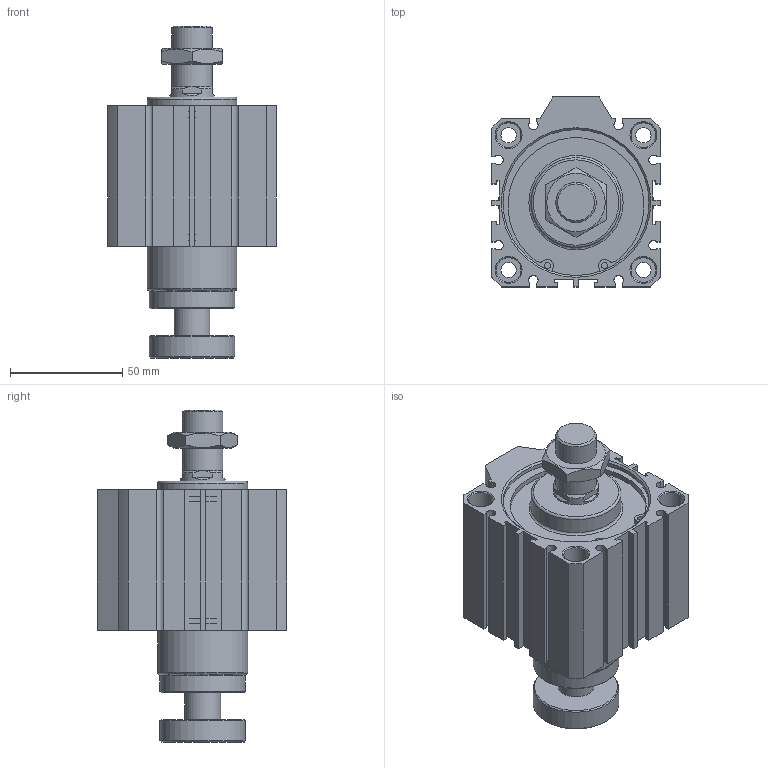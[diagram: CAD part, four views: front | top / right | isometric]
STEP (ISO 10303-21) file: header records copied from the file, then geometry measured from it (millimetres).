
FILE_DESCRIPTION((''),'2;1');
FILE_NAME('I:\3D電子目錄\氣缸\JDAR\JDAR-BS\JDAR63-BS\JDAR63x20-BS.stp','2007-05-05T14:37:55',('662F206'),(''),'Autodesk Inventor 11','Autodesk Inventor 11','');
FILE_SCHEMA(('AUTOMOTIVE_DESIGN { 1 0 10303 214 1 1 1 1 }'));
Length unit declared in the file: millimetre
Products named in the file (3): JDAR63-BS; R 形環 65
Assembly tree (3 placements, depth 2):
  JDAR63-BS
    JDAR63-BS
    R 形環 65  x2
Bounding box: 75 x 84.5 x 147.8 mm (x, y, z)
Volume: 374393.2 mm3; surface area: 64810.6 mm2
Topology: 3 solids, 3 shells, 203 faces, 490 edges, 319 vertices
Faces by surface type: plane 118, cylinder 56, cone 25, bspline 2, torus 2
Full cylindrical faces by diameter (mm): 2.7 x4, 3 x2, 6.8 x4, 11 x8, 16 x1, 18 x2, 20 x1, 38 x2, 40 x2, 65 x4, 68 x2
Entity records: 5389 total; most frequent: CARTESIAN_POINT 1017, DIRECTION 902, ORIENTED_EDGE 798, EDGE_CURVE 399, AXIS2_PLACEMENT_3D 328, VERTEX_POINT 293, EDGE_LOOP 284, VECTOR 246
